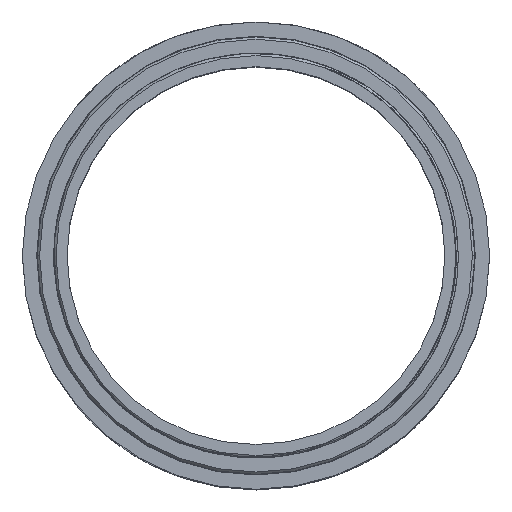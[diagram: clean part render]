
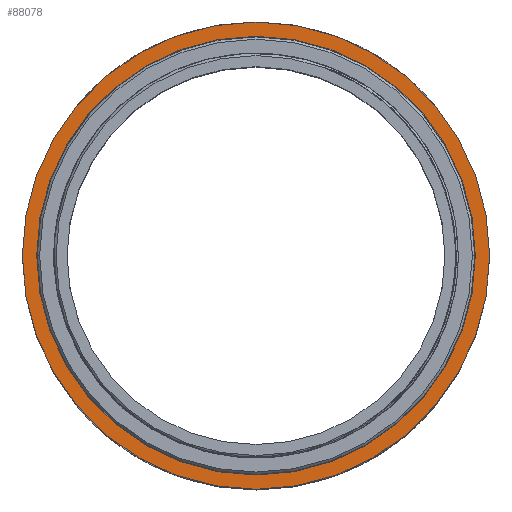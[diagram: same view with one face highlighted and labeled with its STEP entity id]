
A CAD part, top view. The second image highlights one B-rep face of the part: STEP entity #88078.
In plain terms, the highlighted planar face has unit normal (0, 0, 1).
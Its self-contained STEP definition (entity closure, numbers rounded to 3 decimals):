
#87229=CARTESIAN_POINT('',(0.,0.,-13.481));
#87230=DIRECTION('',(0.,0.,1.));
#87231=DIRECTION('',(1.,0.,0.));
#87232=AXIS2_PLACEMENT_3D('',#87229,#87230,#87231);
#87234=CARTESIAN_POINT('',(0.,0.,-13.481));
#87235=DIRECTION('',(0.,0.,1.));
#87236=DIRECTION('',(-1.,0.,0.));
#87237=AXIS2_PLACEMENT_3D('',#87234,#87235,#87236);
#87239=CARTESIAN_POINT('',(0.,0.,-13.481));
#87240=DIRECTION('',(0.,0.,-1.));
#87241=DIRECTION('',(-1.,0.,0.));
#87242=AXIS2_PLACEMENT_3D('',#87239,#87240,#87241);
#87244=CARTESIAN_POINT('',(0.,0.,-13.481));
#87245=DIRECTION('',(0.,0.,-1.));
#87246=DIRECTION('',(1.,0.,0.));
#87247=AXIS2_PLACEMENT_3D('',#87244,#87245,#87246);
#87281=CARTESIAN_POINT('',(-28.016,0.,-13.481));
#87282=CARTESIAN_POINT('',(28.016,0.,-13.481));
#87283=VERTEX_POINT('',#87281);
#87284=VERTEX_POINT('',#87282);
#87289=CARTESIAN_POINT('',(-29.845,0.,-13.481));
#87290=VERTEX_POINT('',#87289);
#87291=CARTESIAN_POINT('',(29.845,0.,-13.481));
#87292=VERTEX_POINT('',#87291);
#88065=CARTESIAN_POINT('',(0.,0.,-13.481));
#88066=DIRECTION('',(0.,0.,1.));
#88067=DIRECTION('',(1.,0.,0.));
#88068=AXIS2_PLACEMENT_3D('',#88065,#88066,#88067);
#88069=PLANE('',#88068);
#88070=ORIENTED_EDGE('',*,*,#87505,.F.);
#88071=ORIENTED_EDGE('',*,*,#87464,.F.);
#88072=EDGE_LOOP('',(#88070,#88071));
#88073=FACE_OUTER_BOUND('',#88072,.F.);
#88074=ORIENTED_EDGE('',*,*,#87562,.F.);
#88075=ORIENTED_EDGE('',*,*,#87871,.F.);
#88076=EDGE_LOOP('',(#88074,#88075));
#88077=FACE_BOUND('',#88076,.F.);
#88078=ADVANCED_FACE('',(#88073,#88077),#88069,.T.);
#87233=CIRCLE('',#87232,29.845);
#87238=CIRCLE('',#87237,29.845);
#87243=CIRCLE('',#87242,28.016);
#87248=CIRCLE('',#87247,28.016);
#87464=EDGE_CURVE('',#87290,#87292,#87238,.T.);
#87505=EDGE_CURVE('',#87292,#87290,#87233,.T.);
#87562=EDGE_CURVE('',#87283,#87284,#87243,.T.);
#87871=EDGE_CURVE('',#87284,#87283,#87248,.T.);
